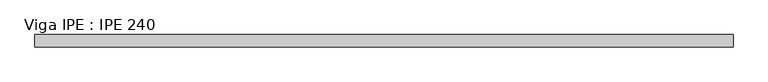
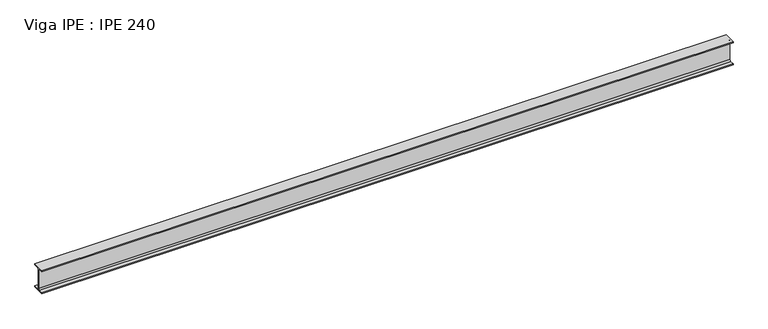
"""IFC4 building model written with IfcOpenShell, lengths in millimetres: beam geometry, Viga IPE : IPE 240."""

from ifc_helpers import new_model, si_unit, point, frame, frame_2d, origin, place, context, project, spatial, polyline, circle_curve, trimmed, segment, composite_curve, outline, extrude, source, transform, mapped, element, save


def viga_ipe_ipe_240_e3ab9ce7(model_context):
    return source(origin(), model_context, "Body", "SweptSolid", [
        extrude(outline(composite_curve([segment(polyline([(60.0, -110.2), (60.0, -120.0), (-60.0, -120.0), (-60.0, -110.2), (-18.1, -110.2)]), True, "CONTINUOUS"), segment(trimmed(circle_curve(frame_2d((-18.1, -95.2)), 15.0), [point((-18.1, -110.2))], [point((-3.1, -95.2))], True, "CARTESIAN"), True, "CONTINUOUS"), segment(polyline([(-3.1, -95.2), (-3.1, 95.2)]), True, "CONTINUOUS"), segment(trimmed(circle_curve(frame_2d((-18.1, 95.2)), 15.0), [point((-3.1, 95.2))], [point((-18.1, 110.2))], True, "CARTESIAN"), True, "CONTINUOUS"), segment(polyline([(-18.1, 110.2), (-60.0, 110.2), (-60.0, 120.0), (60.0, 120.0), (60.0, 110.2), (18.1, 110.2)]), True, "CONTINUOUS"), segment(trimmed(circle_curve(frame_2d((18.1, 95.2)), 15.0), [point((18.1, 110.2))], [point((3.1, 95.2))], True, "CARTESIAN"), True, "CONTINUOUS"), segment(polyline([(3.1, 95.2), (3.1, -95.2)]), True, "CONTINUOUS"), segment(trimmed(circle_curve(frame_2d((18.1, -95.2)), 15.0), [point((3.1, -95.2))], [point((18.1, -110.2))], True, "CARTESIAN"), True, "CONTINUOUS"), segment(polyline([(18.1, -110.2), (60.0, -110.2)]), True, "CONTINUOUS")], self_intersect=False)), frame((-3407.7, 0.0, 0.0), z_axis=(1.0, 0.0, 0.0), x_axis=(0.0, 1.0, 0.0)), (0.0, 0.0, 1.0), 6815.4),
    ])


if __name__ == "__main__":
    model = new_model("IFC4")
    model_context = context("Model", 3, world=origin())
    ifc_project = project(units=[si_unit("LENGTHUNIT", "METRE", prefix="MILLI")], contexts=[model_context])
    site = spatial("IfcSite", under=ifc_project)
    building = spatial("IfcBuilding", under=site)
    placement = place(None, origin())
    viga_ipe_ipe_240_shape = viga_ipe_ipe_240_e3ab9ce7(model_context)
    element("IfcBeam", 1, ObjectType="Viga IPE : IPE 240", at=placement, inside=building, context=model_context, shape_type="MappedRepresentation", body=[
        mapped(viga_ipe_ipe_240_shape, transform((0.0, 0.0, 0.0), x_axis=(1.0, 0.0, 0.0), y_axis=(0.0, 1.0, 0.0), z_axis=(0.0, 0.0, 1.0))),
    ])
    save(model, "model.ifc")
